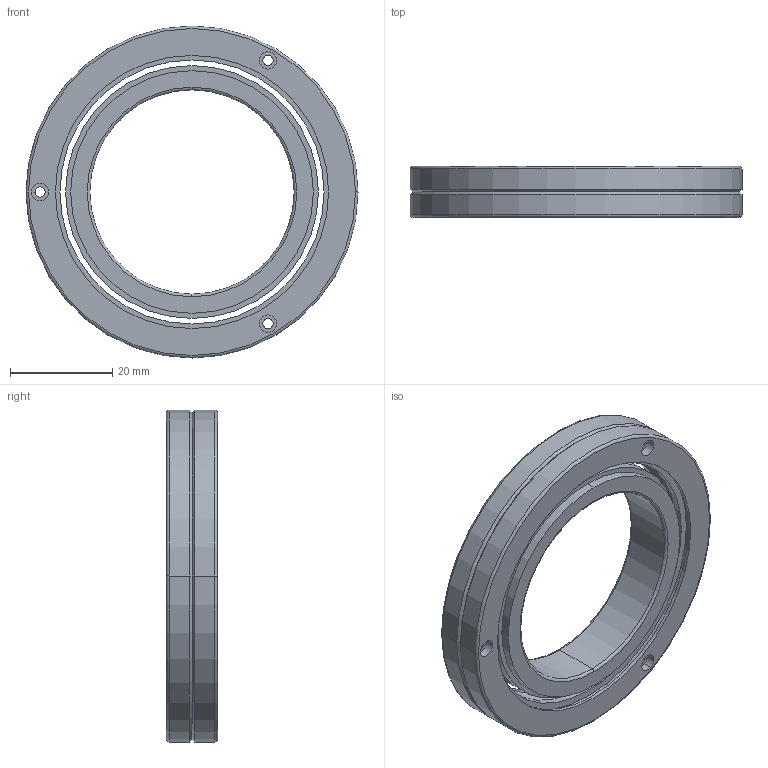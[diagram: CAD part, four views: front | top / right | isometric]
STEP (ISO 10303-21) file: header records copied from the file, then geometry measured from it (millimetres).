
FILE_DESCRIPTION((''),'2;1');
FILE_NAME('RB4010','2016-04-30T',('Administrator'),(''),'PRO/ENGINEER BY PARAMETRIC TECHNOLOGY CORPORATION, 2010180','PRO/ENGINEER BY PARAMETRIC TECHNOLOGY CORPORATION, 2010180','');
FILE_SCHEMA(('AUTOMOTIVE_DESIGN_CC2 { 1 2 10303 214 -1 1 5 2 }'));
Length unit declared in the file: millimetre
Products named in the file (1): RB4010
Bounding box: 65 x 10 x 65 mm (x, y, z)
Volume: 16573.6 mm3; surface area: 11181.4 mm2
Topology: 2 solids, 2 shells, 80 faces, 1009 edges, 956 vertices
Faces by surface type: cylinder 44, plane 16, cone 12, torus 8
Entity records: 9935 total; most frequent: DIRECTION 1293, CARTESIAN_POINT 1198, VECTOR 899, LINE 899, PRESENTATION_STYLE_ASSIGNMENT 854, STYLED_ITEM 854, CURVE_STYLE 844, TRIMMED_CURVE 843
